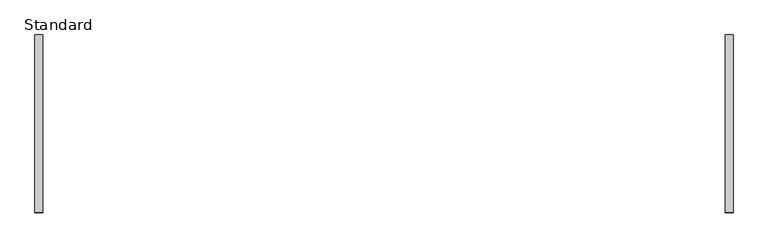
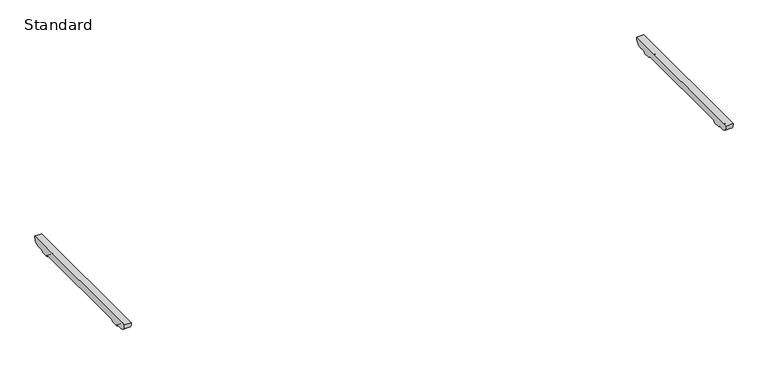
"""IFC4 building model written with IfcOpenShell, lengths in millimetres: furniture geometry, BDG_BossDesign_Tbls_AgentTables4Legs_Nested : Standard."""

from ifc_helpers import new_model, si_unit, point, frame, frame_2d, origin, place, context, project, spatial, polyline, circle_curve, trimmed, segment, composite_curve, outline, extrude, source, transform, mapped, element, save


def standard_613d0d07(model_context):
    return source(origin(), model_context, "Body", "SweptSolid", [
        extrude(outline(composite_curve([segment(polyline([(480.5450184, 672.0), (442.7000122, 672.0)]), True, "CONTINUOUS"), segment(trimmed(circle_curve(frame_2d((442.7000122, 660.0)), 12.0), [point((442.7000122, 672.0))], [point((430.7000122, 660.0))], True, "CARTESIAN"), True, "CONTINUOUS"), segment(polyline([(430.7000122, 660.0), (385.7000122, 660.0)]), True, "CONTINUOUS"), segment(trimmed(circle_curve(frame_2d((373.7000122, 660.0)), 12.0), [point((385.7000122, 660.0))], [point((373.7000122, 672.0))], True, "CARTESIAN"), True, "CONTINUOUS"), segment(polyline([(373.7000122, 672.0), (-373.7000122, 672.0)]), True, "CONTINUOUS"), segment(trimmed(circle_curve(frame_2d((-373.7000122, 660.0)), 12.0), [point((-373.7000122, 672.0))], [point((-385.7000122, 660.0))], True, "CARTESIAN"), True, "CONTINUOUS"), segment(polyline([(-385.7000122, 660.0), (-430.7000122, 660.0)]), True, "CONTINUOUS"), segment(trimmed(circle_curve(frame_2d((-442.7000122, 660.0)), 12.0), [point((-430.7000122, 660.0))], [point((-442.7000122, 672.0))], True, "CARTESIAN"), True, "CONTINUOUS"), segment(polyline([(-442.7000122, 672.0), (-480.5450184, 672.0)]), True, "CONTINUOUS"), segment(trimmed(circle_curve(frame_2d((-478.2220439, 716.5514119)), 44.6119324), [point((-480.5450184, 672.0))], [point((-522.5, 722.0))], False, "CARTESIAN"), True, "CONTINUOUS"), segment(polyline([(-522.5, 722.0), (522.5, 722.0)]), True, "CONTINUOUS"), segment(trimmed(circle_curve(frame_2d((478.2220439, 716.5514119)), 44.6119324), [point((522.5, 722.0))], [point((480.5450184, 672.0))], False, "CARTESIAN"), True, "CONTINUOUS")], self_intersect=False)), frame((2005.0, 0.0, 0.0), z_axis=(1.0, 0.0, 0.0), x_axis=(0.0, 1.0, 0.0)), (0.0, 0.0, 1.0), 45.0),
        extrude(outline(composite_curve([segment(polyline([(480.5450184, 672.0), (442.7000122, 672.0)]), True, "CONTINUOUS"), segment(trimmed(circle_curve(frame_2d((442.7000122, 660.0)), 12.0), [point((442.7000122, 672.0))], [point((430.7000122, 660.0))], True, "CARTESIAN"), True, "CONTINUOUS"), segment(polyline([(430.7000122, 660.0), (385.7000122, 660.0)]), True, "CONTINUOUS"), segment(trimmed(circle_curve(frame_2d((373.7000122, 660.0)), 12.0), [point((385.7000122, 660.0))], [point((373.7000122, 672.0))], True, "CARTESIAN"), True, "CONTINUOUS"), segment(polyline([(373.7000122, 672.0), (-373.7000122, 672.0)]), True, "CONTINUOUS"), segment(trimmed(circle_curve(frame_2d((-373.7000122, 660.0)), 12.0), [point((-373.7000122, 672.0))], [point((-385.7000122, 660.0))], True, "CARTESIAN"), True, "CONTINUOUS"), segment(polyline([(-385.7000122, 660.0), (-430.7000122, 660.0)]), True, "CONTINUOUS"), segment(trimmed(circle_curve(frame_2d((-442.7000122, 660.0)), 12.0), [point((-430.7000122, 660.0))], [point((-442.7000122, 672.0))], True, "CARTESIAN"), True, "CONTINUOUS"), segment(polyline([(-442.7000122, 672.0), (-480.5450184, 672.0)]), True, "CONTINUOUS"), segment(trimmed(circle_curve(frame_2d((-478.2220439, 716.5514119)), 44.6119324), [point((-480.5450184, 672.0))], [point((-522.5, 722.0))], False, "CARTESIAN"), True, "CONTINUOUS"), segment(polyline([(-522.5, 722.0), (522.5, 722.0)]), True, "CONTINUOUS"), segment(trimmed(circle_curve(frame_2d((478.2220439, 716.5514119)), 44.6119324), [point((522.5, 722.0))], [point((480.5450184, 672.0))], False, "CARTESIAN"), True, "CONTINUOUS")], self_intersect=False)), frame((-2050.0, 0.0, 0.0), z_axis=(1.0, 0.0, 0.0), x_axis=(0.0, 1.0, 0.0)), (0.0, 0.0, 1.0), 45.0),
    ])


if __name__ == "__main__":
    model = new_model("IFC4")
    model_context = context("Model", 3, world=origin())
    ifc_project = project(units=[si_unit("LENGTHUNIT", "METRE", prefix="MILLI")], contexts=[model_context])
    site = spatial("IfcSite", under=ifc_project)
    building = spatial("IfcBuilding", under=site)
    placement = place(None, origin())
    standard_shape = standard_613d0d07(model_context)
    element("IfcFurniture", 1, ObjectType="BDG_BossDesign_Tbls_AgentTables4Legs_Nested : Standard", at=placement, inside=building, context=model_context, shape_type="MappedRepresentation", body=[
        mapped(standard_shape, transform((0.0, 0.0, 0.0), x_axis=(1.0, 0.0, 0.0), y_axis=(0.0, 1.0, 0.0), z_axis=(0.0, 0.0, 1.0))),
    ])
    save(model, "model.ifc")
